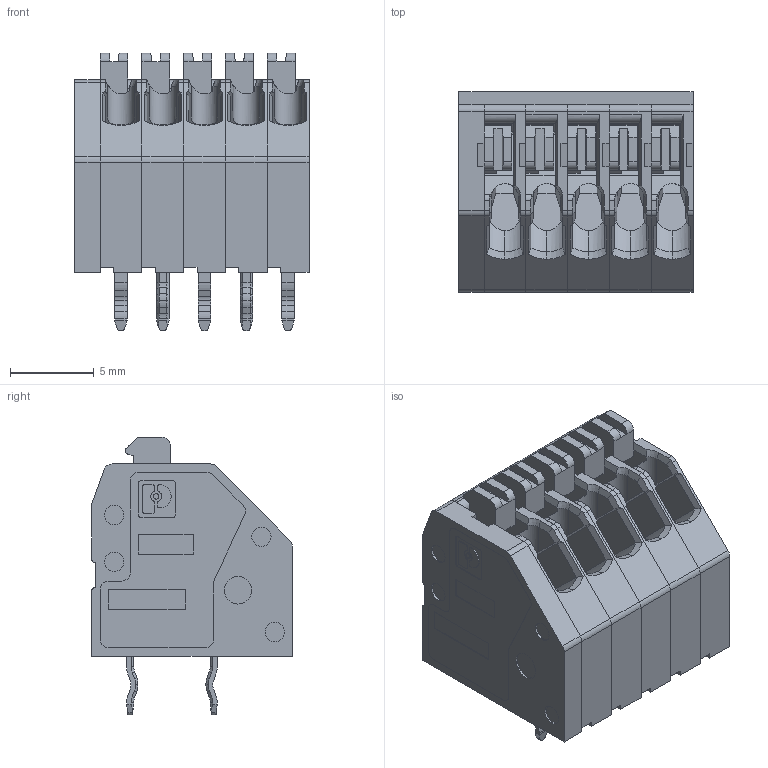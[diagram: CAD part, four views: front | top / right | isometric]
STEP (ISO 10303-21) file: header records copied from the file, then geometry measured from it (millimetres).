
FILE_DESCRIPTION(('STEP AP214'),'1');
FILE_NAME('cctmp_37676C68-1823-4155-B9F8-1E81944674F2_2023_06_28_09_59_12_0554_5412..stp','2023-06-28T09:59:15',('PHOENIX CONTACT Deutschland GmbH'),('CADClick - www.CADClick.com'),'Spatial InterOp 3D',' ','unknown authorization');
FILE_SCHEMA(('AUTOMOTIVE_DESIGN'));
Length unit declared in the file: millimetre
Products named in the file (12): 2023_06_28_09_59_11_0877; 2023_06_28_09_59_12_0554; 2023_06_28_09_59_12_0538; 2023_06_28_09_59_12_0523; 2023_06_28_09_59_12_0507; 2023_06_28_09_59_12_0492; 2023_06_28_09_59_12_0476; 2023_06_28_09_59_12_0429; 2023_06_28_09_59_12_0382; 2023_06_28_09_59_12_0335; 2023_06_28_09_59_12_0288; 2023_06_28_09_59_12_0242
Assembly tree (11 placements, depth 2):
  2023_06_28_09_59_11_0877
    2023_06_28_09_59_12_0554
    2023_06_28_09_59_12_0538
    2023_06_28_09_59_12_0523
    2023_06_28_09_59_12_0507
    2023_06_28_09_59_12_0492
    2023_06_28_09_59_12_0476
    2023_06_28_09_59_12_0429
    2023_06_28_09_59_12_0382
    2023_06_28_09_59_12_0335
    2023_06_28_09_59_12_0288
    2023_06_28_09_59_12_0242
Bounding box: 14 x 12 x 16.6 mm (x, y, z)
Volume: 1510.4 mm3; surface area: 3083.8 mm2
Topology: 11 solids, 11 shells, 4056 faces, 11436 edges, 7559 vertices
Faces by surface type: plane 2554, cylinder 1382, cone 120
Entity records: 164803 total; most frequent: CARTESIAN_POINT 26128, ORIENTED_EDGE 22872, DIRECTION 21521, EDGE_CURVE 11436, VERTEX_POINT 7559, LINE 7507, VECTOR 7507, AXIS2_PLACEMENT_3D 7007
